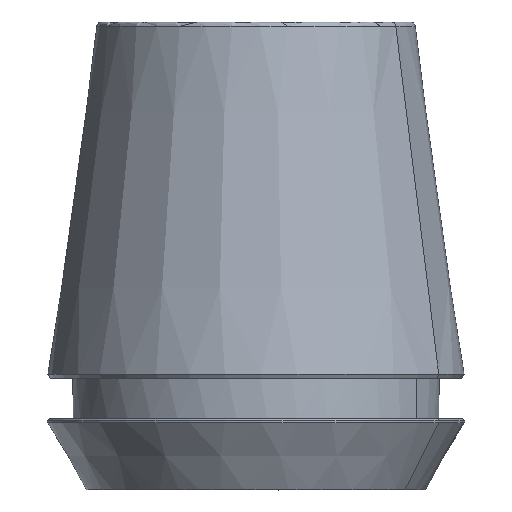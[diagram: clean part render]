
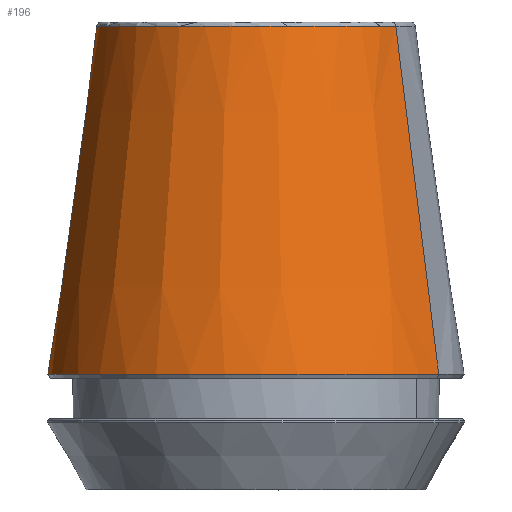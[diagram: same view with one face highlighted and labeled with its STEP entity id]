
A CAD part, front view. The second image highlights one B-rep face of the part: STEP entity #196.
In plain terms, the highlighted conical face has half-angle 8 degrees and reference radius 15.624 mm.
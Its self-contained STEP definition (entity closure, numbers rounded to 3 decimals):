
#119=AXIS2_PLACEMENT_3D('Circle Axis2P3D',#117,#118,$) ;
#183=AXIS2_PLACEMENT_3D('Cone Axis2P3D',#180,#181,#182) ;
#187=AXIS2_PLACEMENT_3D('Circle Axis2P3D',#185,#186,$) ;
#57=CARTESIAN_POINT('Vertex',(13.739,-7.506,-0.43)) ;
#89=CARTESIAN_POINT('Vertex',(-13.739,7.506,-0.43)) ;
#117=CARTESIAN_POINT('Axis2P3D Location',(0.,0.,-0.43)) ;
#152=CARTESIAN_POINT('Line Origine',(61074.799,-33365.315,-495078.653)) ;
#156=CARTESIAN_POINT('Vertex',(17.954,-9.808,-34.6)) ;
#163=CARTESIAN_POINT('Vertex',(-17.954,9.808,-34.6)) ;
#166=CARTESIAN_POINT('Line Origine',(-61074.799,33365.315,-495078.653)) ;
#180=CARTESIAN_POINT('Axis2P3D Location',(0.,0.,-0.204)) ;
#185=CARTESIAN_POINT('Axis2P3D Location',(0.,0.,-34.6)) ;
#118=DIRECTION('Axis2P3D Direction',(0.,0.,1.)) ;
#153=DIRECTION('Vector Direction',(0.122,-0.067,-0.99)) ;
#167=DIRECTION('Vector Direction',(-0.122,0.067,-0.99)) ;
#181=DIRECTION('Axis2P3D Direction',(0.,0.,-1.)) ;
#182=DIRECTION('Axis2P3D XDirection',(0.878,-0.479,0.)) ;
#186=DIRECTION('Axis2P3D Direction',(0.,0.,-1.)) ;
#154=VECTOR('Line Direction',#153,1.) ;
#168=VECTOR('Line Direction',#167,1.) ;
#191=ORIENTED_EDGE('',*,*,#170,.F.) ;
#192=ORIENTED_EDGE('',*,*,#189,.F.) ;
#193=ORIENTED_EDGE('',*,*,#158,.T.) ;
#194=ORIENTED_EDGE('',*,*,#121,.F.) ;
#196=ADVANCED_FACE('NOCUT',(#195),#184,.T.) ;
#120=CIRCLE('generated circle',#119,15.656) ;
#188=CIRCLE('generated circle',#187,20.458) ;
#184=CONICAL_SURFACE('Cone',#183,15.624,0.14) ;
#121=EDGE_CURVE('',#90,#58,#120,.T.) ;
#158=EDGE_CURVE('',#157,#58,#155,.F.) ;
#170=EDGE_CURVE('',#164,#90,#169,.F.) ;
#189=EDGE_CURVE('',#157,#164,#188,.T.) ;
#190=EDGE_LOOP('',(#191,#192,#193,#194)) ;
#195=FACE_OUTER_BOUND('',#190,.T.) ;
#155=LINE('Line',#152,#154) ;
#169=LINE('Line',#166,#168) ;
#58=VERTEX_POINT('',#57) ;
#90=VERTEX_POINT('',#89) ;
#157=VERTEX_POINT('',#156) ;
#164=VERTEX_POINT('',#163) ;
